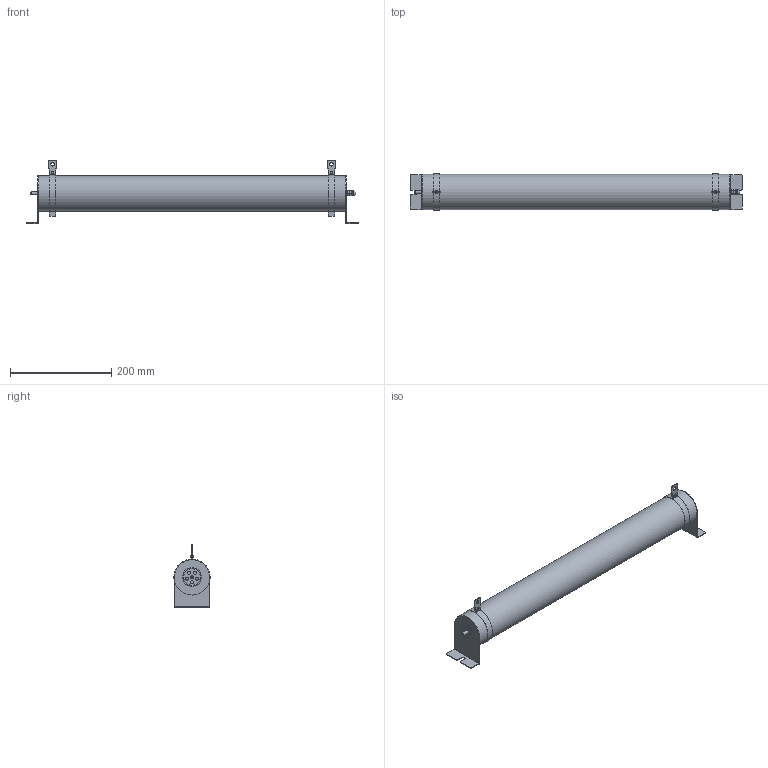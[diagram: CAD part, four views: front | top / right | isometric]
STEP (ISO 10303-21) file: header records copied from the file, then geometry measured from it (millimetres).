
FILE_DESCRIPTION(('STEP AP203'), '1');
FILE_NAME('Ðåçèñòîð òîðìîçíîé _ 3000 Âò 12 Îì', '', ('UNSPECIFIED'), ('UNSPECIFIED'), 'C3D Converter', 'C3D Toolkit', '');
FILE_SCHEMA(('CONFIG_CONTROL_DESIGN'));
Length unit declared in the file: millimetre
Products named in the file (16): 3000 Вт 12 Ом; РТ 3000 Вт 12 Ом; ГОСТ 22032-76; DIN 125 (A); DIN 127 (A); DIN 934; ГОСТ 11860-85; ГОСТ 10299-80
Assembly tree (19 placements, depth 3):
  3000 Вт 12 Ом
    РТ 3000 Вт 12 Ом
    РТ 3000 Вт 12 Ом  x2
    ГОСТ 22032-76  x2
      (unnamed)
    DIN 125 (A)
      (unnamed)
    DIN 127 (A)
      (unnamed)
    DIN 934
      (unnamed)
    ГОСТ 11860-85
      (unnamed)
    РТ 3000 Вт 12 Ом  x2
    ГОСТ 10299-80  x2
      (unnamed)
Bounding box: 655 x 71.5 x 125 mm (x, y, z)
Volume: 2354585.1 mm3; surface area: 192010.1 mm2
Topology: 15 solids, 15 shells, 287 faces, 632 edges, 385 vertices
Faces by surface type: plane 142, cylinder 108, cone 22, torus 12, sphere 3
Full cylindrical faces by diameter (mm): 3.5 x6, 4.917 x2, 5.7 x10, 6 x4, 6.4 x1, 6.5 x2, 6.8 x4, 9.5 x1, 12 x1, 35 x2, 70 x1
Entity records: 6908 total; most frequent: CARTESIAN_POINT 1807, DIRECTION 828, ORIENTED_EDGE 666, AXIS2_PLACEMENT_3D 342, EDGE_CURVE 333, EDGE_LOOP 242, VERTEX_POINT 225, ADVANCED_FACE 173
